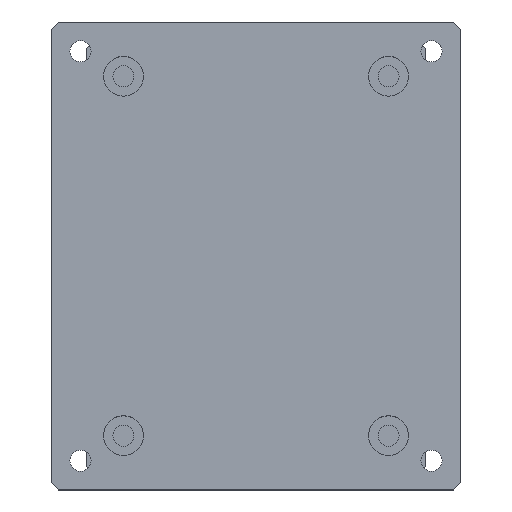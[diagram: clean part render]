
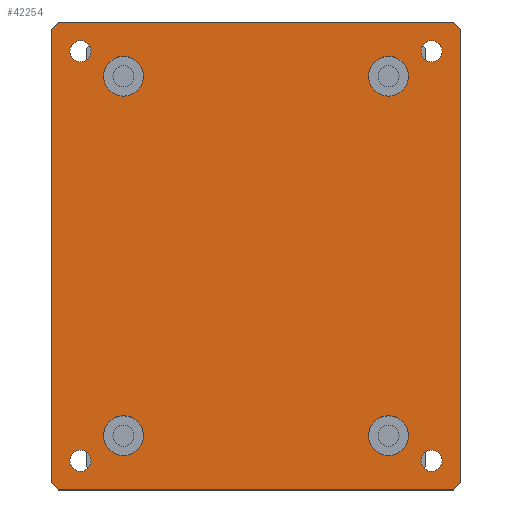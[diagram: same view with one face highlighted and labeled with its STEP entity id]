
A CAD part, top view. The second image highlights one B-rep face of the part: STEP entity #42254.
In plain terms, the highlighted planar face has unit normal (0, 0, 1).
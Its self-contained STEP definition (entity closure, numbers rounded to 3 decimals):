
#41616=CARTESIAN_POINT('',(75.,87.5,10.));
#41617=DIRECTION('',(0.,0.,-1.));
#41618=DIRECTION('',(-1.,0.,0.));
#41619=AXIS2_PLACEMENT_3D('',#41616,#41617,#41618);
#41621=CARTESIAN_POINT('',(75.,87.5,10.));
#41622=DIRECTION('',(0.,0.,-1.));
#41623=DIRECTION('',(1.,0.,0.));
#41624=AXIS2_PLACEMENT_3D('',#41621,#41622,#41623);
#41626=CARTESIAN_POINT('',(-75.,87.5,10.));
#41627=DIRECTION('',(0.,0.,-1.));
#41628=DIRECTION('',(-1.,0.,0.));
#41629=AXIS2_PLACEMENT_3D('',#41626,#41627,#41628);
#41631=CARTESIAN_POINT('',(-75.,87.5,10.));
#41632=DIRECTION('',(0.,0.,-1.));
#41633=DIRECTION('',(1.,0.,0.));
#41634=AXIS2_PLACEMENT_3D('',#41631,#41632,#41633);
#41636=CARTESIAN_POINT('',(75.,-87.5,10.));
#41637=DIRECTION('',(0.,0.,-1.));
#41638=DIRECTION('',(-1.,0.,0.));
#41639=AXIS2_PLACEMENT_3D('',#41636,#41637,#41638);
#41641=CARTESIAN_POINT('',(75.,-87.5,10.));
#41642=DIRECTION('',(0.,0.,-1.));
#41643=DIRECTION('',(1.,0.,0.));
#41644=AXIS2_PLACEMENT_3D('',#41641,#41642,#41643);
#41646=CARTESIAN_POINT('',(-75.,-87.5,10.));
#41647=DIRECTION('',(0.,0.,-1.));
#41648=DIRECTION('',(-1.,0.,0.));
#41649=AXIS2_PLACEMENT_3D('',#41646,#41647,#41648);
#41651=CARTESIAN_POINT('',(-75.,-87.5,10.));
#41652=DIRECTION('',(0.,0.,-1.));
#41653=DIRECTION('',(1.,0.,0.));
#41654=AXIS2_PLACEMENT_3D('',#41651,#41652,#41653);
#41656=DIRECTION('',(0.707,-0.707,0.));
#41657=VECTOR('',#41656,4.243);
#41658=CARTESIAN_POINT('',(-87.5,-97.,10.));
#41659=LINE('',#41658,#41657);
#41660=DIRECTION('',(0.,-1.,0.));
#41661=VECTOR('',#41660,194.);
#41662=CARTESIAN_POINT('',(-87.5,97.,10.));
#41663=LINE('',#41662,#41661);
#41664=DIRECTION('',(-0.707,-0.707,0.));
#41665=VECTOR('',#41664,4.243);
#41666=CARTESIAN_POINT('',(-84.5,100.,10.));
#41667=LINE('',#41666,#41665);
#41668=DIRECTION('',(-1.,0.,0.));
#41669=VECTOR('',#41668,169.);
#41670=CARTESIAN_POINT('',(84.5,100.,10.));
#41671=LINE('',#41670,#41669);
#41672=DIRECTION('',(-0.707,0.707,0.));
#41673=VECTOR('',#41672,4.243);
#41674=CARTESIAN_POINT('',(87.5,97.,10.));
#41675=LINE('',#41674,#41673);
#41676=DIRECTION('',(0.,1.,0.));
#41677=VECTOR('',#41676,194.);
#41678=CARTESIAN_POINT('',(87.5,-97.,10.));
#41679=LINE('',#41678,#41677);
#41680=DIRECTION('',(0.707,0.707,0.));
#41681=VECTOR('',#41680,4.243);
#41682=CARTESIAN_POINT('',(84.5,-100.,10.));
#41683=LINE('',#41682,#41681);
#41684=DIRECTION('',(1.,0.,0.));
#41685=VECTOR('',#41684,169.);
#41686=CARTESIAN_POINT('',(-84.5,-100.,10.));
#41687=LINE('',#41686,#41685);
#41688=CARTESIAN_POINT('',(-56.65,-76.8,10.));
#41689=DIRECTION('',(0.,0.,1.));
#41690=DIRECTION('',(-1.,0.,0.));
#41691=AXIS2_PLACEMENT_3D('',#41688,#41689,#41690);
#41693=CARTESIAN_POINT('',(-56.65,-76.8,10.));
#41694=DIRECTION('',(0.,0.,1.));
#41695=DIRECTION('',(1.,0.,0.));
#41696=AXIS2_PLACEMENT_3D('',#41693,#41694,#41695);
#41698=CARTESIAN_POINT('',(56.65,-76.8,10.));
#41699=DIRECTION('',(0.,0.,1.));
#41700=DIRECTION('',(-1.,0.,0.));
#41701=AXIS2_PLACEMENT_3D('',#41698,#41699,#41700);
#41703=CARTESIAN_POINT('',(56.65,-76.8,10.));
#41704=DIRECTION('',(0.,0.,1.));
#41705=DIRECTION('',(1.,0.,0.));
#41706=AXIS2_PLACEMENT_3D('',#41703,#41704,#41705);
#41708=CARTESIAN_POINT('',(56.65,76.8,10.));
#41709=DIRECTION('',(0.,0.,1.));
#41710=DIRECTION('',(-1.,0.,0.));
#41711=AXIS2_PLACEMENT_3D('',#41708,#41709,#41710);
#41713=CARTESIAN_POINT('',(56.65,76.8,10.));
#41714=DIRECTION('',(0.,0.,1.));
#41715=DIRECTION('',(1.,0.,0.));
#41716=AXIS2_PLACEMENT_3D('',#41713,#41714,#41715);
#41718=CARTESIAN_POINT('',(-56.65,76.8,10.));
#41719=DIRECTION('',(0.,0.,1.));
#41720=DIRECTION('',(-1.,0.,0.));
#41721=AXIS2_PLACEMENT_3D('',#41718,#41719,#41720);
#41723=CARTESIAN_POINT('',(-56.65,76.8,10.));
#41724=DIRECTION('',(0.,0.,1.));
#41725=DIRECTION('',(1.,0.,0.));
#41726=AXIS2_PLACEMENT_3D('',#41723,#41724,#41725);
#41915=CARTESIAN_POINT('',(70.5,87.5,10.));
#41916=CARTESIAN_POINT('',(79.5,87.5,10.));
#41917=VERTEX_POINT('',#41915);
#41918=VERTEX_POINT('',#41916);
#41919=CARTESIAN_POINT('',(-79.5,87.5,10.));
#41920=CARTESIAN_POINT('',(-70.5,87.5,10.));
#41921=VERTEX_POINT('',#41919);
#41922=VERTEX_POINT('',#41920);
#41923=CARTESIAN_POINT('',(70.5,-87.5,10.));
#41924=CARTESIAN_POINT('',(79.5,-87.5,10.));
#41925=VERTEX_POINT('',#41923);
#41926=VERTEX_POINT('',#41924);
#41927=CARTESIAN_POINT('',(-79.5,-87.5,10.));
#41928=CARTESIAN_POINT('',(-70.5,-87.5,10.));
#41929=VERTEX_POINT('',#41927);
#41930=VERTEX_POINT('',#41928);
#41935=CARTESIAN_POINT('',(-87.5,-97.,10.));
#41936=VERTEX_POINT('',#41935);
#41937=CARTESIAN_POINT('',(-84.5,-100.,10.));
#41938=VERTEX_POINT('',#41937);
#41943=CARTESIAN_POINT('',(84.5,-100.,10.));
#41944=VERTEX_POINT('',#41943);
#41945=CARTESIAN_POINT('',(87.5,-97.,10.));
#41946=VERTEX_POINT('',#41945);
#41951=CARTESIAN_POINT('',(87.5,97.,10.));
#41952=VERTEX_POINT('',#41951);
#41953=CARTESIAN_POINT('',(84.5,100.,10.));
#41954=VERTEX_POINT('',#41953);
#41959=CARTESIAN_POINT('',(-84.5,100.,10.));
#41960=VERTEX_POINT('',#41959);
#41961=CARTESIAN_POINT('',(-87.5,97.,10.));
#41962=VERTEX_POINT('',#41961);
#41979=CARTESIAN_POINT('',(-65.15,-76.8,10.));
#41980=CARTESIAN_POINT('',(-48.15,-76.8,10.));
#41981=VERTEX_POINT('',#41979);
#41982=VERTEX_POINT('',#41980);
#41983=CARTESIAN_POINT('',(48.15,-76.8,10.));
#41984=CARTESIAN_POINT('',(65.15,-76.8,10.));
#41985=VERTEX_POINT('',#41983);
#41986=VERTEX_POINT('',#41984);
#41987=CARTESIAN_POINT('',(48.15,76.8,10.));
#41988=CARTESIAN_POINT('',(65.15,76.8,10.));
#41989=VERTEX_POINT('',#41987);
#41990=VERTEX_POINT('',#41988);
#41991=CARTESIAN_POINT('',(-65.15,76.8,10.));
#41992=CARTESIAN_POINT('',(-48.15,76.8,10.));
#41993=VERTEX_POINT('',#41991);
#41994=VERTEX_POINT('',#41992);
#42184=CARTESIAN_POINT('',(0.,0.,10.));
#42185=DIRECTION('',(0.,0.,1.));
#42186=DIRECTION('',(1.,0.,0.));
#42187=AXIS2_PLACEMENT_3D('',#42184,#42185,#42186);
#42188=PLANE('',#42187);
#42190=ORIENTED_EDGE('',*,*,#42189,.F.);
#42192=ORIENTED_EDGE('',*,*,#42191,.F.);
#42194=ORIENTED_EDGE('',*,*,#42193,.F.);
#42196=ORIENTED_EDGE('',*,*,#42195,.F.);
#42198=ORIENTED_EDGE('',*,*,#42197,.F.);
#42200=ORIENTED_EDGE('',*,*,#42199,.F.);
#42202=ORIENTED_EDGE('',*,*,#42201,.F.);
#42204=ORIENTED_EDGE('',*,*,#42203,.F.);
#42205=EDGE_LOOP('',(#42190,#42192,#42194,#42196,#42198,#42200,#42202,#42204));
#42206=FACE_OUTER_BOUND('',#42205,.F.);
#42208=ORIENTED_EDGE('',*,*,#42207,.F.);
#42210=ORIENTED_EDGE('',*,*,#42209,.F.);
#42211=EDGE_LOOP('',(#42208,#42210));
#42212=FACE_BOUND('',#42211,.F.);
#42214=ORIENTED_EDGE('',*,*,#42213,.F.);
#42216=ORIENTED_EDGE('',*,*,#42215,.F.);
#42217=EDGE_LOOP('',(#42214,#42216));
#42218=FACE_BOUND('',#42217,.F.);
#42220=ORIENTED_EDGE('',*,*,#42219,.F.);
#42222=ORIENTED_EDGE('',*,*,#42221,.F.);
#42223=EDGE_LOOP('',(#42220,#42222));
#42224=FACE_BOUND('',#42223,.F.);
#42226=ORIENTED_EDGE('',*,*,#42225,.F.);
#42228=ORIENTED_EDGE('',*,*,#42227,.F.);
#42229=EDGE_LOOP('',(#42226,#42228));
#42230=FACE_BOUND('',#42229,.F.);
#42231=ORIENTED_EDGE('',*,*,#42174,.T.);
#42233=ORIENTED_EDGE('',*,*,#42232,.T.);
#42234=EDGE_LOOP('',(#42231,#42233));
#42235=FACE_BOUND('',#42234,.F.);
#42237=ORIENTED_EDGE('',*,*,#42236,.T.);
#42239=ORIENTED_EDGE('',*,*,#42238,.T.);
#42240=EDGE_LOOP('',(#42237,#42239));
#42241=FACE_BOUND('',#42240,.F.);
#42243=ORIENTED_EDGE('',*,*,#42242,.T.);
#42245=ORIENTED_EDGE('',*,*,#42244,.T.);
#42246=EDGE_LOOP('',(#42243,#42245));
#42247=FACE_BOUND('',#42246,.F.);
#42249=ORIENTED_EDGE('',*,*,#42248,.T.);
#42251=ORIENTED_EDGE('',*,*,#42250,.T.);
#42252=EDGE_LOOP('',(#42249,#42251));
#42253=FACE_BOUND('',#42252,.F.);
#41620=CIRCLE('',#41619,4.5);
#41625=CIRCLE('',#41624,4.5);
#41630=CIRCLE('',#41629,4.5);
#41635=CIRCLE('',#41634,4.5);
#41640=CIRCLE('',#41639,4.5);
#41645=CIRCLE('',#41644,4.5);
#41650=CIRCLE('',#41649,4.5);
#41655=CIRCLE('',#41654,4.5);
#41692=CIRCLE('',#41691,8.5);
#41697=CIRCLE('',#41696,8.5);
#41702=CIRCLE('',#41701,8.5);
#41707=CIRCLE('',#41706,8.5);
#41712=CIRCLE('',#41711,8.5);
#41717=CIRCLE('',#41716,8.5);
#41722=CIRCLE('',#41721,8.5);
#41727=CIRCLE('',#41726,8.5);
#42174=EDGE_CURVE('',#41981,#41982,#41692,.T.);
#42189=EDGE_CURVE('',#41936,#41938,#41659,.T.);
#42191=EDGE_CURVE('',#41962,#41936,#41663,.T.);
#42193=EDGE_CURVE('',#41960,#41962,#41667,.T.);
#42195=EDGE_CURVE('',#41954,#41960,#41671,.T.);
#42197=EDGE_CURVE('',#41952,#41954,#41675,.T.);
#42199=EDGE_CURVE('',#41946,#41952,#41679,.T.);
#42201=EDGE_CURVE('',#41944,#41946,#41683,.T.);
#42203=EDGE_CURVE('',#41938,#41944,#41687,.T.);
#42207=EDGE_CURVE('',#41921,#41922,#41630,.T.);
#42209=EDGE_CURVE('',#41922,#41921,#41635,.T.);
#42213=EDGE_CURVE('',#41925,#41926,#41640,.T.);
#42215=EDGE_CURVE('',#41926,#41925,#41645,.T.);
#42219=EDGE_CURVE('',#41929,#41930,#41650,.T.);
#42221=EDGE_CURVE('',#41930,#41929,#41655,.T.);
#42225=EDGE_CURVE('',#41917,#41918,#41620,.T.);
#42227=EDGE_CURVE('',#41918,#41917,#41625,.T.);
#42232=EDGE_CURVE('',#41982,#41981,#41697,.T.);
#42236=EDGE_CURVE('',#41985,#41986,#41702,.T.);
#42238=EDGE_CURVE('',#41986,#41985,#41707,.T.);
#42242=EDGE_CURVE('',#41989,#41990,#41712,.T.);
#42244=EDGE_CURVE('',#41990,#41989,#41717,.T.);
#42248=EDGE_CURVE('',#41993,#41994,#41722,.T.);
#42250=EDGE_CURVE('',#41994,#41993,#41727,.T.);
#42254=ADVANCED_FACE('',(#42206,#42212,#42218,#42224,#42230,#42235,#42241,
#42247,#42253),#42188,.T.);
